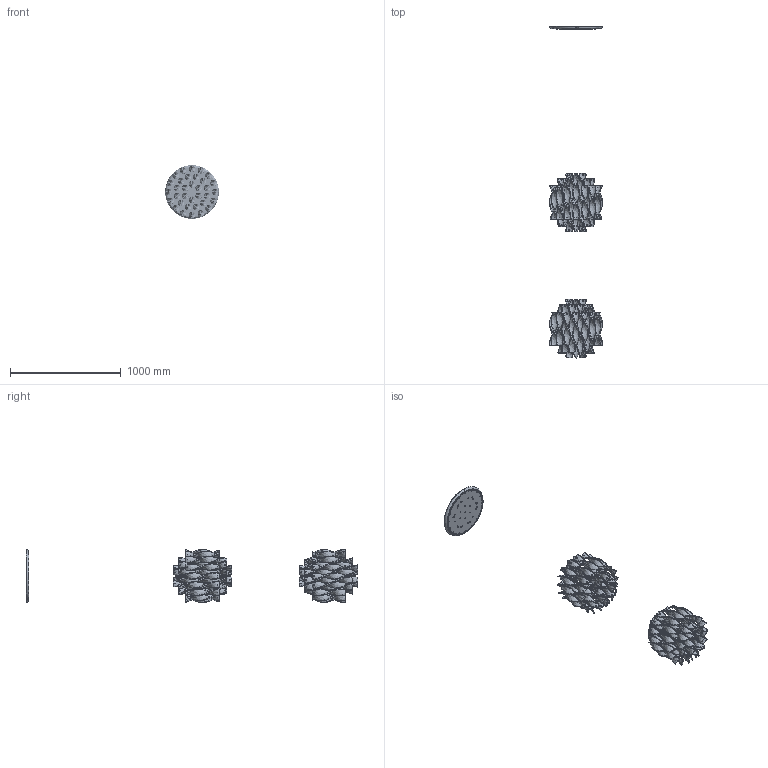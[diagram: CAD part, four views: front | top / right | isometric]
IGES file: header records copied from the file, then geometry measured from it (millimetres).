
Start section: SolidWorks IGES file using analytic representation for surfaces
Global section: file name: \\STORAGE\Tecnico Condiviso\1 FASCICOLI TECNICI\AXO DESIGN\aura\produzione\SP AURA 45\SPAURA45XXXXE27-FABIANO\SPAURA45-4\SPAURA45-2-PER 3D.IGS; native system: SolidWorks 2024; preprocessor: SolidWorks 2024; author: tecnico3; date: 240529.181718; units: millimetre
Bounding box: 484 x 3000 x 484 mm (x, y, z)
Surface area: 4276362.7 mm2 (no closed solid volume)
Topology: 0 solids, 0 shells, 1001 faces, 25476 edges, 25476 vertices
Faces by surface type: bspline 693, revolution 308
